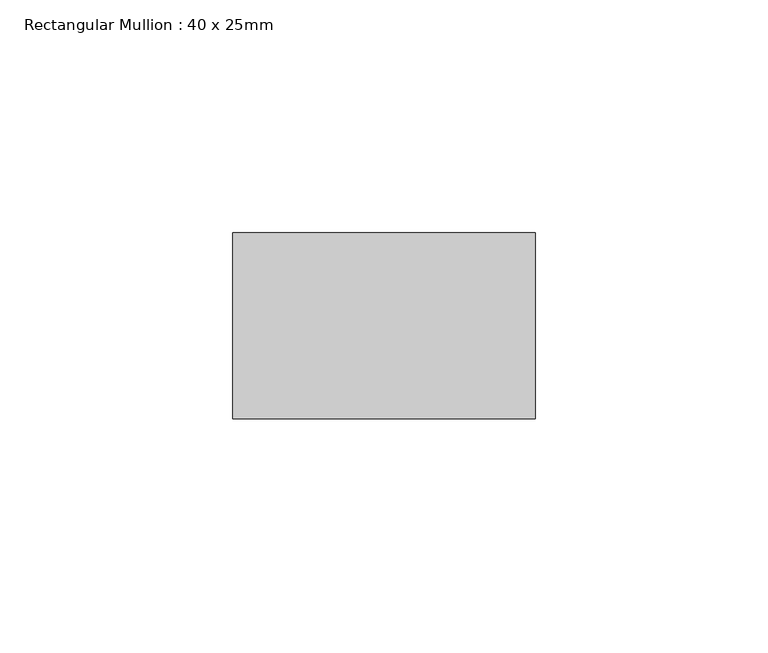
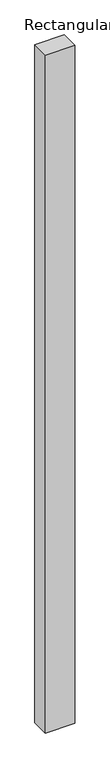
"""IFC4 building model written with IfcOpenShell, lengths in millimetres: member geometry, Rectangular Mullion : 40 x 25mm."""

from ifc_helpers import new_model, si_unit, frame, origin, place, context, project, spatial, polyline, outline, extrude, source, transform, mapped, element, save


def rectangular_mullion_40_x_25mm_c931c978(model_context):
    return source(origin(), model_context, "Body", "SweptSolid", [
        extrude(outline(polyline([(0.0, -20.0), (0.0, -60.0), (-65.0, -60.0), (-65.0, -20.0), (0.0, -20.0)])), frame((0.0, 0.0, -1583.6), z_axis=(0.0, 0.0, 1.0), x_axis=(1.0, 0.0, 0.0)), (0.0, 0.0, 1.0), 1583.6),
    ])


if __name__ == "__main__":
    model = new_model("IFC4")
    model_context = context("Model", 3, world=origin())
    ifc_project = project(units=[si_unit("LENGTHUNIT", "METRE", prefix="MILLI")], contexts=[model_context])
    site = spatial("IfcSite", under=ifc_project)
    building = spatial("IfcBuilding", under=site)
    placement = place(None, origin())
    rectangular_mullion_40_x_25mm_shape = rectangular_mullion_40_x_25mm_c931c978(model_context)
    element("IfcMember", 1, ObjectType="Rectangular Mullion : 40 x 25mm", at=placement, inside=building, context=model_context, shape_type="MappedRepresentation", body=[
        mapped(rectangular_mullion_40_x_25mm_shape, transform((0.0, 0.0, 0.0), x_axis=(1.0, 0.0, 0.0), y_axis=(0.0, 1.0, 0.0), z_axis=(0.0, 0.0, 1.0))),
    ])
    save(model, "model.ifc")
